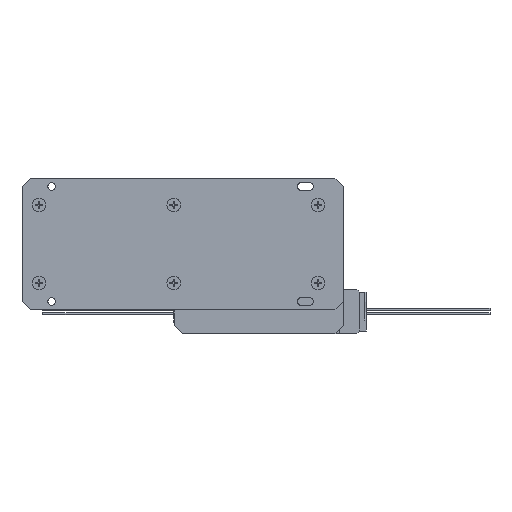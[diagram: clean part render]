
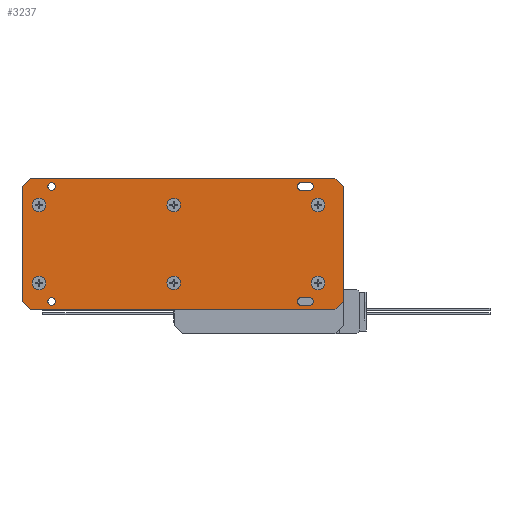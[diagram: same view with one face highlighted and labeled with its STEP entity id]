
A CAD part, front view. The second image highlights one B-rep face of the part: STEP entity #3237.
In plain terms, the highlighted planar face has unit normal (0, -1, 0).
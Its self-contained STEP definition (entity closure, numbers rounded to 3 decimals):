
#3237=ADVANCED_FACE('',(#7211,#7212,#7213,#7214,#7215,#7216,#7217,#7218,#7219,#7220,#7221),#7222,.F.);
#7211=FACE_OUTER_BOUND('',#12092,.T.);
#7212=FACE_BOUND('',#12093,.T.);
#7213=FACE_BOUND('',#12094,.T.);
#7214=FACE_BOUND('',#12095,.T.);
#7215=FACE_BOUND('',#12096,.T.);
#7216=FACE_BOUND('',#12097,.T.);
#7217=FACE_BOUND('',#12098,.T.);
#7218=FACE_BOUND('',#12099,.T.);
#7219=FACE_BOUND('',#12100,.T.);
#7220=FACE_BOUND('',#12101,.T.);
#7221=FACE_BOUND('',#12102,.T.);
#7222=PLANE('',#12103);
#12092=EDGE_LOOP('',(#27008,#27009,#27010,#27011,#27012,#27013,#27014,#27015));
#12093=EDGE_LOOP('',(#27016,#27017,#27018,#27019));
#12094=EDGE_LOOP('',(#27020,#27021,#27022,#27023));
#12095=EDGE_LOOP('',(#27024));
#12096=EDGE_LOOP('',(#27025));
#12097=EDGE_LOOP('',(#27026));
#12098=EDGE_LOOP('',(#27027));
#12099=EDGE_LOOP('',(#27028));
#12100=EDGE_LOOP('',(#27029));
#12101=EDGE_LOOP('',(#27030));
#12102=EDGE_LOOP('',(#27031));
#12103=AXIS2_PLACEMENT_3D('',#27032,#27033,#27034);
#27008=ORIENTED_EDGE('',*,*,#37937,.F.);
#27009=ORIENTED_EDGE('',*,*,#37774,.F.);
#27010=ORIENTED_EDGE('',*,*,#37947,.F.);
#27011=ORIENTED_EDGE('',*,*,#37689,.F.);
#27012=ORIENTED_EDGE('',*,*,#37945,.F.);
#27013=ORIENTED_EDGE('',*,*,#37942,.F.);
#27014=ORIENTED_EDGE('',*,*,#37717,.F.);
#27015=ORIENTED_EDGE('',*,*,#37940,.F.);
#27016=ORIENTED_EDGE('',*,*,#37949,.T.);
#27017=ORIENTED_EDGE('',*,*,#37964,.T.);
#27018=ORIENTED_EDGE('',*,*,#37956,.T.);
#27019=ORIENTED_EDGE('',*,*,#37953,.T.);
#27020=ORIENTED_EDGE('',*,*,#37785,.T.);
#27021=ORIENTED_EDGE('',*,*,#37711,.T.);
#27022=ORIENTED_EDGE('',*,*,#37962,.T.);
#27023=ORIENTED_EDGE('',*,*,#37959,.T.);
#27024=ORIENTED_EDGE('',*,*,#37966,.T.);
#27025=ORIENTED_EDGE('',*,*,#37721,.T.);
#27026=ORIENTED_EDGE('',*,*,#37706,.F.);
#27027=ORIENTED_EDGE('',*,*,#37968,.F.);
#27028=ORIENTED_EDGE('',*,*,#37969,.F.);
#27029=ORIENTED_EDGE('',*,*,#37970,.F.);
#27030=ORIENTED_EDGE('',*,*,#37971,.F.);
#27031=ORIENTED_EDGE('',*,*,#37972,.F.);
#27032=CARTESIAN_POINT('',(0.,0.0,0.0));
#27033=DIRECTION('',(-0.0,1.0,0.0));
#27034=DIRECTION('',(1.0,0.0,0.0));
#37689=EDGE_CURVE('',#46380,#46381,#46382,.T.);
#37706=EDGE_CURVE('',#46414,#46414,#46415,.T.);
#37711=EDGE_CURVE('',#46424,#46425,#46426,.T.);
#37717=EDGE_CURVE('',#46435,#46436,#46437,.T.);
#37721=EDGE_CURVE('',#46443,#46443,#46444,.T.);
#37774=EDGE_CURVE('',#46544,#46545,#46546,.T.);
#37785=EDGE_CURVE('',#46565,#46424,#46566,.T.);
#37937=EDGE_CURVE('',#46545,#46805,#46806,.T.);
#37940=EDGE_CURVE('',#46805,#46435,#46810,.T.);
#37942=EDGE_CURVE('',#46436,#46812,#46813,.T.);
#37945=EDGE_CURVE('',#46812,#46380,#46817,.T.);
#37947=EDGE_CURVE('',#46381,#46544,#46819,.T.);
#37949=EDGE_CURVE('',#46821,#46822,#46823,.T.);
#37953=EDGE_CURVE('',#46829,#46821,#46830,.T.);
#37956=EDGE_CURVE('',#46834,#46829,#46835,.T.);
#37959=EDGE_CURVE('',#46839,#46565,#46840,.T.);
#37962=EDGE_CURVE('',#46425,#46839,#46844,.T.);
#37964=EDGE_CURVE('',#46822,#46834,#46846,.T.);
#37966=EDGE_CURVE('',#46848,#46848,#46849,.T.);
#37968=EDGE_CURVE('',#46852,#46852,#46853,.T.);
#37969=EDGE_CURVE('',#46854,#46854,#46855,.T.);
#37970=EDGE_CURVE('',#46856,#46856,#46857,.T.);
#37971=EDGE_CURVE('',#46858,#46858,#46859,.T.);
#37972=EDGE_CURVE('',#46860,#46860,#46861,.T.);
#46380=VERTEX_POINT('',#59641);
#46381=VERTEX_POINT('',#59642);
#46382=LINE('',#59643,#59644);
#46414=VERTEX_POINT('',#59687);
#46415=CIRCLE('',#59688,4.0);
#46424=VERTEX_POINT('',#59701);
#46425=VERTEX_POINT('',#59702);
#46426=CIRCLE('',#59703,2.25);
#46435=VERTEX_POINT('',#59716);
#46436=VERTEX_POINT('',#59717);
#46437=LINE('',#59718,#59719);
#46443=VERTEX_POINT('',#59728);
#46444=CIRCLE('',#59729,2.25);
#46544=VERTEX_POINT('',#59873);
#46545=VERTEX_POINT('',#59874);
#46546=LINE('',#59875,#59876);
#46565=VERTEX_POINT('',#59903);
#46566=LINE('',#59904,#59905);
#46805=VERTEX_POINT('',#60271);
#46806=LINE('',#60272,#60273);
#46810=LINE('',#60279,#60280);
#46812=VERTEX_POINT('',#60283);
#46813=LINE('',#60284,#60285);
#46817=LINE('',#60291,#60292);
#46819=LINE('',#60295,#60296);
#46821=VERTEX_POINT('',#60299);
#46822=VERTEX_POINT('',#60300);
#46823=LINE('',#60301,#60302);
#46829=VERTEX_POINT('',#60311);
#46830=CIRCLE('',#60312,2.25);
#46834=VERTEX_POINT('',#60317);
#46835=LINE('',#60318,#60319);
#46839=VERTEX_POINT('',#60325);
#46840=CIRCLE('',#60326,2.25);
#46844=LINE('',#60331,#60332);
#46846=CIRCLE('',#60335,2.25);
#46848=VERTEX_POINT('',#60337);
#46849=CIRCLE('',#60338,2.25);
#46852=VERTEX_POINT('',#60341);
#46853=CIRCLE('',#60342,4.0);
#46854=VERTEX_POINT('',#60343);
#46855=CIRCLE('',#60344,4.0);
#46856=VERTEX_POINT('',#60345);
#46857=CIRCLE('',#60346,4.0);
#46858=VERTEX_POINT('',#60347);
#46859=CIRCLE('',#60348,4.0);
#46860=VERTEX_POINT('',#60349);
#46861=CIRCLE('',#60350,4.0);
#59641=CARTESIAN_POINT('',(157.8,0.0,34.0));
#59642=CARTESIAN_POINT('',(157.8,0.0,-34.0));
#59643=CARTESIAN_POINT('',(157.8,0.0,34.0));
#59644=VECTOR('',#72797,1.0);
#59687=CARTESIAN_POINT('',(-22.2,0.0,19.0));
#59688=AXIS2_PLACEMENT_3D('',#72824,#72825,#72826);
#59701=CARTESIAN_POINT('',(132.8,0.0,31.75));
#59702=CARTESIAN_POINT('',(132.8,0.0,36.25));
#59703=AXIS2_PLACEMENT_3D('',#72831,#72832,#72833);
#59716=CARTESIAN_POINT('',(-32.2,0.0,34.0));
#59717=CARTESIAN_POINT('',(-27.2,0.0,39.0));
#59718=CARTESIAN_POINT('',(-32.2,0.0,34.0));
#59719=VECTOR('',#72841,1.0);
#59728=CARTESIAN_POINT('',(-12.45,0.0,34.0));
#59729=AXIS2_PLACEMENT_3D('',#72845,#72846,#72847);
#59873=CARTESIAN_POINT('',(152.8,0.0,-39.0));
#59874=CARTESIAN_POINT('',(-27.2,0.0,-39.0));
#59875=CARTESIAN_POINT('',(152.8,0.0,-39.0));
#59876=VECTOR('',#72916,1.0);
#59903=CARTESIAN_POINT('',(137.8,0.0,31.75));
#59904=CARTESIAN_POINT('',(137.8,0.0,31.75));
#59905=VECTOR('',#72931,1.0);
#60271=CARTESIAN_POINT('',(-32.2,0.0,-34.0));
#60272=CARTESIAN_POINT('',(-27.2,0.0,-39.0));
#60273=VECTOR('',#73131,1.0);
#60279=CARTESIAN_POINT('',(-32.2,0.0,-34.0));
#60280=VECTOR('',#73134,1.0);
#60283=CARTESIAN_POINT('',(152.8,0.0,39.0));
#60284=CARTESIAN_POINT('',(-27.2,0.0,39.0));
#60285=VECTOR('',#73136,1.0);
#60291=CARTESIAN_POINT('',(152.8,0.0,39.0));
#60292=VECTOR('',#73139,1.0);
#60295=CARTESIAN_POINT('',(157.8,0.0,-34.0));
#60296=VECTOR('',#73141,1.0);
#60299=CARTESIAN_POINT('',(137.8,0.0,-36.25));
#60300=CARTESIAN_POINT('',(132.8,0.0,-36.25));
#60301=CARTESIAN_POINT('',(137.8,0.0,-36.25));
#60302=VECTOR('',#73143,1.0);
#60311=CARTESIAN_POINT('',(137.8,0.0,-31.75));
#60312=AXIS2_PLACEMENT_3D('',#73147,#73148,#73149);
#60317=CARTESIAN_POINT('',(132.8,0.0,-31.75));
#60318=CARTESIAN_POINT('',(132.8,0.0,-31.75));
#60319=VECTOR('',#73154,1.0);
#60325=CARTESIAN_POINT('',(137.8,0.0,36.25));
#60326=AXIS2_PLACEMENT_3D('',#73157,#73158,#73159);
#60331=CARTESIAN_POINT('',(132.8,0.0,36.25));
#60332=VECTOR('',#73164,1.0);
#60335=AXIS2_PLACEMENT_3D('',#73166,#73167,#73168);
#60337=CARTESIAN_POINT('',(-12.45,0.0,-34.0));
#60338=AXIS2_PLACEMENT_3D('',#73172,#73173,#73174);
#60341=CARTESIAN_POINT('',(57.5,0.0,19.0));
#60342=AXIS2_PLACEMENT_3D('',#73178,#73179,#73180);
#60343=CARTESIAN_POINT('',(-22.2,0.0,-27.0));
#60344=AXIS2_PLACEMENT_3D('',#73181,#73182,#73183);
#60345=CARTESIAN_POINT('',(57.5,0.0,-27.0));
#60346=AXIS2_PLACEMENT_3D('',#73184,#73185,#73186);
#60347=CARTESIAN_POINT('',(142.8,0.0,19.0));
#60348=AXIS2_PLACEMENT_3D('',#73187,#73188,#73189);
#60349=CARTESIAN_POINT('',(142.8,0.0,-27.0));
#60350=AXIS2_PLACEMENT_3D('',#73190,#73191,#73192);
#72797=DIRECTION('',(0.0,0.0,-1.0));
#72824=CARTESIAN_POINT('',(-22.2,0.0,23.0));
#72825=DIRECTION('',(0.0,-1.0,0.0));
#72826=DIRECTION('',(0.0,0.0,-1.0));
#72831=CARTESIAN_POINT('',(132.8,0.0,34.0));
#72832=DIRECTION('',(-0.0,1.0,0.0));
#72833=DIRECTION('',(1.0,0.0,0.0));
#72841=DIRECTION('',(0.707,0.0,0.707));
#72845=CARTESIAN_POINT('',(-14.7,0.0,34.0));
#72846=DIRECTION('',(-0.0,1.0,0.0));
#72847=DIRECTION('',(1.0,0.0,0.0));
#72916=DIRECTION('',(-1.0,0.0,0.0));
#72931=DIRECTION('',(-1.0,0.0,0.0));
#73131=DIRECTION('',(-0.707,0.0,0.707));
#73134=DIRECTION('',(0.0,0.0,1.0));
#73136=DIRECTION('',(1.0,0.0,0.0));
#73139=DIRECTION('',(0.707,0.0,-0.707));
#73141=DIRECTION('',(-0.707,0.0,-0.707));
#73143=DIRECTION('',(-1.0,0.0,0.0));
#73147=CARTESIAN_POINT('',(137.8,0.0,-34.0));
#73148=DIRECTION('',(-0.0,1.0,0.0));
#73149=DIRECTION('',(1.0,0.0,0.0));
#73154=DIRECTION('',(1.0,0.0,0.0));
#73157=CARTESIAN_POINT('',(137.8,0.0,34.0));
#73158=DIRECTION('',(-0.0,1.0,0.0));
#73159=DIRECTION('',(1.0,0.0,0.0));
#73164=DIRECTION('',(1.0,0.0,0.0));
#73166=CARTESIAN_POINT('',(132.8,0.0,-34.0));
#73167=DIRECTION('',(-0.0,1.0,0.0));
#73168=DIRECTION('',(1.0,0.0,0.0));
#73172=CARTESIAN_POINT('',(-14.7,0.0,-34.0));
#73173=DIRECTION('',(-0.0,1.0,0.0));
#73174=DIRECTION('',(1.0,0.0,0.0));
#73178=CARTESIAN_POINT('',(57.5,0.0,23.0));
#73179=DIRECTION('',(0.0,-1.0,0.0));
#73180=DIRECTION('',(0.0,0.0,-1.0));
#73181=CARTESIAN_POINT('',(-22.2,0.0,-23.0));
#73182=DIRECTION('',(0.0,-1.0,0.0));
#73183=DIRECTION('',(0.0,0.0,-1.0));
#73184=CARTESIAN_POINT('',(57.5,0.0,-23.0));
#73185=DIRECTION('',(0.0,-1.0,0.0));
#73186=DIRECTION('',(0.0,0.0,-1.0));
#73187=CARTESIAN_POINT('',(142.8,0.0,23.0));
#73188=DIRECTION('',(0.0,-1.0,0.0));
#73189=DIRECTION('',(0.0,0.0,-1.0));
#73190=CARTESIAN_POINT('',(142.8,0.0,-23.0));
#73191=DIRECTION('',(0.0,-1.0,0.0));
#73192=DIRECTION('',(0.0,0.0,-1.0));
